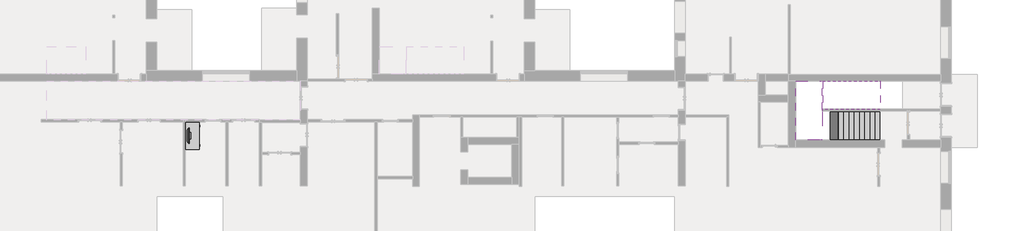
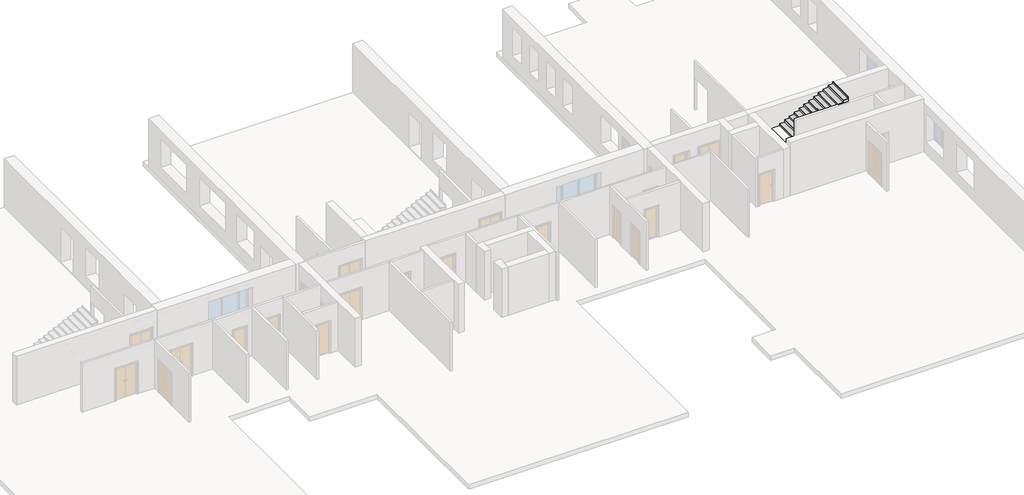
# One storey, part 10 of 10: 2 furniture elements, 2 stair flights, 1 slab.
"""IFC4 building model written with IfcOpenShell, lengths in millimetres."""

from ifc_helpers import new_model, si_unit, frame, origin, origin_with_axes, place, context, project, spatial, polyline, outline, extrude, faceted_brep, transform, mapped, element, save
from components import furniture_8f660baf, furniture_56245f3a

model = new_model("IFC4")

# Units and contexts
model_context = context("Model", 3, world=origin())
ifc_project = project(units=[si_unit("LENGTHUNIT", "METRE", prefix="MILLI")], contexts=[model_context])

# Site, building, storey
site = spatial("IfcSite", under=ifc_project)
building = spatial("IfcBuilding", under=site)
storey = spatial("IfcBuildingStorey", under=building, Name="1 этаж", Elevation=0.0)

# Furniture
placement = place(None, origin())
furniture_shape = furniture_8f660baf(model_context)
element("IfcFurniture", 1, ObjectType="Стол : 1525 x 762 мм", at=placement, inside=storey, context=model_context, shape_type="MappedRepresentation", body=[
    mapped(furniture_shape, transform((-22387.8240021, 2342.6370105, 0.0), x_axis=(0.0, 1.0, 0.0), y_axis=(-1.0, 0.0, 0.0), z_axis=(0.0, 0.0, 1.0))),
])
furniture_2_shape = furniture_56245f3a(model_context)
element("IfcFurniture", 2, ObjectType="ТВ - Плоский экран : 0810 мм", at=placement, inside=storey, context=model_context, shape_type="MappedRepresentation", body=[
    mapped(furniture_2_shape, transform((-23021.8272682, 3108.5815247, 765.0), x_axis=(0.0, 1.0, 0.0), y_axis=(-1.0, 0.0, 0.0), z_axis=(0.0, 0.0, 1.0))),
])

# Slab
element("IfcSlab", 3, ObjectType="ADSK_Монолитная_С отделкой_200х80", at=placement, inside=storey, context=model_context, shape_type="SolidModel", body=[
    faceted_brep([(13273.3708722, 2864.6370105, 1697.7777778), (13273.3708722, 4456.8092053, 1697.7777778), (13288.3708722, 4456.8092053, 1697.7777778), (13288.3708722, 4597.6092053, 1697.7777778), (13303.3708722, 4597.6092053, 1697.7777778), (13303.3708722, 6224.6370105, 1697.7777778), (13288.3708722, 6224.6370105, 1697.7777778), (13135.8893219, 6224.6370105, 1697.7777778), (11757.6759979, 6224.6370105, 1697.7777778), (11757.6759979, 2864.6370105, 1697.7777778), (13140.8524225, 2864.6370105, 1697.7777778), (13273.3708722, 2864.6370105, 1599.6296296), (13273.3708722, 2864.6370105, 1432.3365681), (13273.3708722, 4456.8092053, 1432.3365681), (13273.3708722, 4456.8092053, 1497.7777778), (13273.3708722, 4456.8092053, 1599.6296296), (13288.3708722, 4456.8092053, 1497.7777778), (13288.3708722, 4597.6092053, 1497.7777778), (13288.3708722, 4597.6092053, 1573.0773088), (13303.3708722, 4597.6092053, 1580.4847162), (13303.3708722, 6224.6370105, 1580.4847162), (13288.3708722, 6224.6370105, 1573.0773088), (13135.8893219, 6224.6370105, 1497.7777778), (11757.6759979, 6224.6370105, 1497.7777778), (11757.6759979, 2864.6370105, 1497.7777778), (13140.8524225, 2864.6370105, 1497.7777778), (13135.8893219, 4597.6092053, 1497.7777778), (13140.8524225, 4456.8092053, 1497.7777778)], [[[0, 1, 2, 3, 4, 5, 6, 7, 8, 9, 10]], [[1, 0, 11, 12, 13, 14, 15]], [[2, 1, 15, 14, 16]], [[3, 2, 16, 17, 18]], [[4, 3, 18, 19]], [[5, 4, 19, 20]], [[6, 5, 20, 21]], [[6, 21, 22, 23, 8, 7]], [[9, 8, 23, 24]], [[12, 11, 0, 10, 9, 24, 25]], [[26, 17, 16, 14, 27, 25, 24, 23, 22]], [[17, 26, 18]], [[25, 27, 13, 12]], [[27, 14, 13]], [[26, 22, 21, 20, 19, 18]]]),
    extrude(outline(polyline([(13288.3708722, 2864.6370105), (11757.6759979, 2864.6370105), (11757.6759979, 6224.6370105), (13288.3708722, 6224.6370105), (13288.3708722, 4597.6092053), (13288.3708722, 4456.8092053), (13288.3708722, 2864.6370105)])), frame((0.0, 0.0, 1697.7777778), z_axis=(0.0, 0.0, 1.0), x_axis=(1.0, 0.0, 0.0)), (0.0, 0.0, 1.0), 80.0),
])

# Stair flights
element("IfcStairFlight", 4, ObjectType="ADSK_Монолитный_С отделкой_150х30х15", at=placement, inside=storey, context=model_context, shape_type="SolidModel", body=[
    faceted_brep([(16273.3708722, 2864.6370105, 118.1481481), (16573.3708722, 2864.6370105, 118.1481481), (16573.3708722, 4456.8092053, 118.1481481), (16273.3708722, 4456.8092053, 118.1481481), (16273.3708722, 2864.6370105, 0.0), (16573.3708722, 2864.6370105, 0.0), (16573.3708722, 4456.8092053, 0.0), (16273.3708722, 4456.8092053, 0.0), (15973.3708722, 2864.6370105, 266.2962963), (16273.3708722, 2864.6370105, 266.2962963), (16273.3708722, 4456.8092053, 266.2962963), (15973.3708722, 4456.8092053, 266.2962963), (15973.3708722, 2864.6370105, 99.0032347), (16173.8524225, 2864.6370105, 0.0), (16173.8524225, 4456.8092053, 0.0), (15973.3708722, 4456.8092053, 99.0032347), (15673.3708722, 2864.6370105, 414.4444444), (15973.3708722, 2864.6370105, 414.4444444), (15973.3708722, 4456.8092053, 414.4444444), (15673.3708722, 4456.8092053, 414.4444444), (15673.3708722, 2864.6370105, 247.1513829), (15673.3708722, 4456.8092053, 247.1513829), (15373.3708722, 2864.6370105, 562.5925926), (15673.3708722, 2864.6370105, 562.5925926), (15673.3708722, 4456.8092053, 562.5925926), (15373.3708722, 4456.8092053, 562.5925926), (15373.3708722, 2864.6370105, 395.299531), (15373.3708722, 4456.8092053, 395.299531), (15073.3708722, 2864.6370105, 710.7407407), (15373.3708722, 2864.6370105, 710.7407407), (15373.3708722, 4456.8092053, 710.7407407), (15073.3708722, 4456.8092053, 710.7407407), (15073.3708722, 2864.6370105, 543.4476792), (15073.3708722, 4456.8092053, 543.4476792), (14773.3708722, 2864.6370105, 858.8888889), (15073.3708722, 2864.6370105, 858.8888889), (15073.3708722, 4456.8092053, 858.8888889), (14773.3708722, 4456.8092053, 858.8888889), (14773.3708722, 2864.6370105, 691.5958273), (14773.3708722, 4456.8092053, 691.5958273), (14473.3708722, 2864.6370105, 1007.037037), (14773.3708722, 2864.6370105, 1007.037037), (14773.3708722, 4456.8092053, 1007.037037), (14473.3708722, 4456.8092053, 1007.037037), (14473.3708722, 2864.6370105, 839.7439755), (14473.3708722, 4456.8092053, 839.7439755), (14173.3708722, 2864.6370105, 1155.1851852), (14473.3708722, 2864.6370105, 1155.1851852), (14473.3708722, 4456.8092053, 1155.1851852), (14173.3708722, 4456.8092053, 1155.1851852), (14173.3708722, 2864.6370105, 987.8921236), (14173.3708722, 4456.8092053, 987.8921236), (13873.3708722, 2864.6370105, 1303.3333333), (14173.3708722, 2864.6370105, 1303.3333333), (14173.3708722, 4456.8092053, 1303.3333333), (13873.3708722, 4456.8092053, 1303.3333333), (13873.3708722, 2864.6370105, 1136.0402718), (13873.3708722, 4456.8092053, 1136.0402718), (13573.3708722, 2864.6370105, 1451.4814815), (13873.3708722, 2864.6370105, 1451.4814815), (13873.3708722, 4456.8092053, 1451.4814815), (13573.3708722, 4456.8092053, 1451.4814815), (13573.3708722, 2864.6370105, 1284.1884199), (13573.3708722, 4456.8092053, 1284.1884199), (13573.3708722, 2864.6370105, 1599.6296296), (13573.3708722, 4456.8092053, 1599.6296296), (13288.3708722, 4456.8092053, 1599.6296296), (13273.3708722, 4456.8092053, 1599.6296296), (13273.3708722, 2864.6370105, 1599.6296296), (13288.3708722, 2864.6370105, 1599.6296296), (13273.3708722, 2864.6370105, 1432.3365681), (13288.3708722, 2864.6370105, 1424.9291607), (13273.3708722, 4456.8092053, 1432.3365681), (13273.3708722, 4456.8092053, 1497.7777778)], [[[0, 1, 2, 3]], [[1, 0, 4, 5]], [[2, 1, 5, 6]], [[3, 2, 6, 7]], [[8, 9, 10, 11]], [[4, 0, 9, 8, 12, 13]], [[0, 3, 10, 9]], [[3, 7, 14, 15, 11, 10]], [[16, 17, 18, 19]], [[17, 16, 20, 12, 8]], [[8, 11, 18, 17]], [[19, 18, 11, 15, 21]], [[22, 23, 24, 25]], [[23, 22, 26, 20, 16]], [[16, 19, 24, 23]], [[25, 24, 19, 21, 27]], [[28, 29, 30, 31]], [[29, 28, 32, 26, 22]], [[22, 25, 30, 29]], [[31, 30, 25, 27, 33]], [[34, 35, 36, 37]], [[35, 34, 38, 32, 28]], [[28, 31, 36, 35]], [[37, 36, 31, 33, 39]], [[40, 41, 42, 43]], [[41, 40, 44, 38, 34]], [[34, 37, 42, 41]], [[43, 42, 37, 39, 45]], [[46, 47, 48, 49]], [[47, 46, 50, 44, 40]], [[40, 43, 48, 47]], [[49, 48, 43, 45, 51]], [[52, 53, 54, 55]], [[53, 52, 56, 50, 46]], [[46, 49, 54, 53]], [[55, 54, 49, 51, 57]], [[58, 59, 60, 61]], [[59, 58, 62, 56, 52]], [[52, 55, 60, 59]], [[61, 60, 55, 57, 63]], [[64, 65, 66, 67, 68, 69]], [[58, 64, 69, 68, 70, 71, 62]], [[58, 61, 65, 64]], [[65, 61, 63, 72, 73, 67, 66]], [[68, 67, 73, 72, 70]], [[5, 4, 13, 14, 7, 6]], [[14, 13, 12, 20, 26, 32, 38, 44, 50, 56, 62, 71, 70, 72, 63, 57, 51, 45, 39, 33, 27, 21, 15]]]),
    extrude(outline(polyline([(16573.3708722, 4456.8092053), (16588.3708722, 4456.8092053), (16588.3708722, 2864.6370105), (16573.3708722, 2864.6370105), (16573.3708722, 4456.8092053)])), origin_with_axes(), (0.0, 0.0, 1.0), 118.1481481),
    extrude(outline(polyline([(16288.3708722, 2864.6370105), (16288.3708722, 4456.8092053), (16588.3708722, 4456.8092053), (16588.3708722, 2864.6370105), (16288.3708722, 2864.6370105)])), frame((0.0, 0.0, 118.1481481), z_axis=(0.0, 0.0, 1.0), x_axis=(1.0, 0.0, 0.0)), (0.0, 0.0, 1.0), 30.0),
    extrude(outline(polyline([(16273.3708722, 4456.8092053), (16288.3708722, 4456.8092053), (16288.3708722, 2864.6370105), (16273.3708722, 2864.6370105), (16273.3708722, 4456.8092053)])), frame((0.0, 0.0, 118.1481481), z_axis=(0.0, 0.0, 1.0), x_axis=(1.0, 0.0, 0.0)), (0.0, 0.0, 1.0), 148.1481481),
    extrude(outline(polyline([(15988.3708722, 2864.6370105), (15988.3708722, 4456.8092053), (16288.3708722, 4456.8092053), (16288.3708722, 2864.6370105), (15988.3708722, 2864.6370105)])), frame((0.0, 0.0, 266.2962963), z_axis=(0.0, 0.0, 1.0), x_axis=(1.0, 0.0, 0.0)), (0.0, 0.0, 1.0), 30.0),
    extrude(outline(polyline([(15973.3708722, 4456.8092053), (15988.3708722, 4456.8092053), (15988.3708722, 2864.6370105), (15973.3708722, 2864.6370105), (15973.3708722, 4456.8092053)])), frame((0.0, 0.0, 266.2962963), z_axis=(0.0, 0.0, 1.0), x_axis=(1.0, 0.0, 0.0)), (0.0, 0.0, 1.0), 148.1481481),
    extrude(outline(polyline([(15688.3708722, 2864.6370105), (15688.3708722, 4456.8092053), (15988.3708722, 4456.8092053), (15988.3708722, 2864.6370105), (15688.3708722, 2864.6370105)])), frame((0.0, 0.0, 414.4444444), z_axis=(0.0, 0.0, 1.0), x_axis=(1.0, 0.0, 0.0)), (0.0, 0.0, 1.0), 30.0),
    extrude(outline(polyline([(15673.3708722, 4456.8092053), (15688.3708722, 4456.8092053), (15688.3708722, 2864.6370105), (15673.3708722, 2864.6370105), (15673.3708722, 4456.8092053)])), frame((0.0, 0.0, 414.4444444), z_axis=(0.0, 0.0, 1.0), x_axis=(1.0, 0.0, 0.0)), (0.0, 0.0, 1.0), 148.1481481),
    extrude(outline(polyline([(15388.3708722, 2864.6370105), (15388.3708722, 4456.8092053), (15688.3708722, 4456.8092053), (15688.3708722, 2864.6370105), (15388.3708722, 2864.6370105)])), frame((0.0, 0.0, 562.5925926), z_axis=(0.0, 0.0, 1.0), x_axis=(1.0, 0.0, 0.0)), (0.0, 0.0, 1.0), 30.0),
    extrude(outline(polyline([(15373.3708722, 4456.8092053), (15388.3708722, 4456.8092053), (15388.3708722, 2864.6370105), (15373.3708722, 2864.6370105), (15373.3708722, 4456.8092053)])), frame((0.0, 0.0, 562.5925926), z_axis=(0.0, 0.0, 1.0), x_axis=(1.0, 0.0, 0.0)), (0.0, 0.0, 1.0), 148.1481481),
    extrude(outline(polyline([(15088.3708722, 2864.6370105), (15088.3708722, 4456.8092053), (15388.3708722, 4456.8092053), (15388.3708722, 2864.6370105), (15088.3708722, 2864.6370105)])), frame((0.0, 0.0, 710.7407407), z_axis=(0.0, 0.0, 1.0), x_axis=(1.0, 0.0, 0.0)), (0.0, 0.0, 1.0), 30.0),
    extrude(outline(polyline([(15073.3708722, 4456.8092053), (15088.3708722, 4456.8092053), (15088.3708722, 2864.6370105), (15073.3708722, 2864.6370105), (15073.3708722, 4456.8092053)])), frame((0.0, 0.0, 710.7407407), z_axis=(0.0, 0.0, 1.0), x_axis=(1.0, 0.0, 0.0)), (0.0, 0.0, 1.0), 148.1481481),
    extrude(outline(polyline([(14788.3708722, 2864.6370105), (14788.3708722, 4456.8092053), (15088.3708722, 4456.8092053), (15088.3708722, 2864.6370105), (14788.3708722, 2864.6370105)])), frame((0.0, 0.0, 858.8888889), z_axis=(0.0, 0.0, 1.0), x_axis=(1.0, 0.0, 0.0)), (0.0, 0.0, 1.0), 30.0),
    extrude(outline(polyline([(14773.3708722, 4456.8092053), (14788.3708722, 4456.8092053), (14788.3708722, 2864.6370105), (14773.3708722, 2864.6370105), (14773.3708722, 4456.8092053)])), frame((0.0, 0.0, 858.8888889), z_axis=(0.0, 0.0, 1.0), x_axis=(1.0, 0.0, 0.0)), (0.0, 0.0, 1.0), 148.1481481),
    extrude(outline(polyline([(14488.3708722, 2864.6370105), (14488.3708722, 4456.8092053), (14788.3708722, 4456.8092053), (14788.3708722, 2864.6370105), (14488.3708722, 2864.6370105)])), frame((0.0, 0.0, 1007.037037), z_axis=(0.0, 0.0, 1.0), x_axis=(1.0, 0.0, 0.0)), (0.0, 0.0, 1.0), 30.0),
    extrude(outline(polyline([(14473.3708722, 4456.8092053), (14488.3708722, 4456.8092053), (14488.3708722, 2864.6370105), (14473.3708722, 2864.6370105), (14473.3708722, 4456.8092053)])), frame((0.0, 0.0, 1007.037037), z_axis=(0.0, 0.0, 1.0), x_axis=(1.0, 0.0, 0.0)), (0.0, 0.0, 1.0), 148.1481481),
    extrude(outline(polyline([(14188.3708722, 2864.6370105), (14188.3708722, 4456.8092053), (14488.3708722, 4456.8092053), (14488.3708722, 2864.6370105), (14188.3708722, 2864.6370105)])), frame((0.0, 0.0, 1155.1851852), z_axis=(0.0, 0.0, 1.0), x_axis=(1.0, 0.0, 0.0)), (0.0, 0.0, 1.0), 30.0),
    extrude(outline(polyline([(14173.3708722, 4456.8092053), (14188.3708722, 4456.8092053), (14188.3708722, 2864.6370105), (14173.3708722, 2864.6370105), (14173.3708722, 4456.8092053)])), frame((0.0, 0.0, 1155.1851852), z_axis=(0.0, 0.0, 1.0), x_axis=(1.0, 0.0, 0.0)), (0.0, 0.0, 1.0), 148.1481481),
    extrude(outline(polyline([(13888.3708722, 2864.6370105), (13888.3708722, 4456.8092053), (14188.3708722, 4456.8092053), (14188.3708722, 2864.6370105), (13888.3708722, 2864.6370105)])), frame((0.0, 0.0, 1303.3333333), z_axis=(0.0, 0.0, 1.0), x_axis=(1.0, 0.0, 0.0)), (0.0, 0.0, 1.0), 30.0),
    extrude(outline(polyline([(13873.3708722, 4456.8092053), (13888.3708722, 4456.8092053), (13888.3708722, 2864.6370105), (13873.3708722, 2864.6370105), (13873.3708722, 4456.8092053)])), frame((0.0, 0.0, 1303.3333333), z_axis=(0.0, 0.0, 1.0), x_axis=(1.0, 0.0, 0.0)), (0.0, 0.0, 1.0), 148.1481481),
    extrude(outline(polyline([(13588.3708722, 2864.6370105), (13588.3708722, 4456.8092053), (13888.3708722, 4456.8092053), (13888.3708722, 2864.6370105), (13588.3708722, 2864.6370105)])), frame((0.0, 0.0, 1451.4814815), z_axis=(0.0, 0.0, 1.0), x_axis=(1.0, 0.0, 0.0)), (0.0, 0.0, 1.0), 30.0),
    extrude(outline(polyline([(13573.3708722, 4456.8092053), (13588.3708722, 4456.8092053), (13588.3708722, 2864.6370105), (13573.3708722, 2864.6370105), (13573.3708722, 4456.8092053)])), frame((0.0, 0.0, 1451.4814815), z_axis=(0.0, 0.0, 1.0), x_axis=(1.0, 0.0, 0.0)), (0.0, 0.0, 1.0), 148.1481481),
    extrude(outline(polyline([(13273.3708722, 4456.8092053), (13288.3708722, 4456.8092053), (13288.3708722, 2864.6370105), (13273.3708722, 2864.6370105), (13273.3708722, 4456.8092053)])), frame((0.0, 0.0, 1599.6296296), z_axis=(0.0, 0.0, 1.0), x_axis=(1.0, 0.0, 0.0)), (0.0, 0.0, 1.0), 98.1481481),
    extrude(outline(polyline([(13288.3708722, 2864.6370105), (13288.3708722, 4456.8092053), (13588.3708722, 4456.8092053), (13588.3708722, 2864.6370105), (13288.3708722, 2864.6370105)])), frame((0.0, 0.0, 1599.6296296), z_axis=(0.0, 0.0, 1.0), x_axis=(1.0, 0.0, 0.0)), (0.0, 0.0, 1.0), 30.0),
])
element("IfcStairFlight", 5, ObjectType="ADSK_Монолитный_С отделкой_150х30х15", at=placement, inside=storey, context=model_context, shape_type="SolidModel", body=[
    faceted_brep([(13603.3708722, 6224.6370105, 1895.9259259), (13303.3708722, 6224.6370105, 1895.9259259), (13303.3708722, 4597.6092053, 1895.9259259), (13603.3708722, 4597.6092053, 1895.9259259), (13603.3708722, 6224.6370105, 1728.6328644), (13303.3708722, 6224.6370105, 1580.4847162), (13303.3708722, 6224.6370105, 1697.7777778), (13303.3708722, 4597.6092053, 1580.4847162), (13303.3708722, 4597.6092053, 1697.7777778), (13603.3708722, 4597.6092053, 1728.6328644), (13903.3708722, 6224.6370105, 2044.0740741), (13603.3708722, 6224.6370105, 2044.0740741), (13603.3708722, 4597.6092053, 2044.0740741), (13903.3708722, 4597.6092053, 2044.0740741), (13903.3708722, 6224.6370105, 1876.7810125), (13903.3708722, 4597.6092053, 1876.7810125), (14203.3708722, 6224.6370105, 2192.2222222), (13903.3708722, 6224.6370105, 2192.2222222), (13903.3708722, 4597.6092053, 2192.2222222), (14203.3708722, 4597.6092053, 2192.2222222), (14203.3708722, 6224.6370105, 2024.9291607), (14203.3708722, 4597.6092053, 2024.9291607), (14503.3708722, 6224.6370105, 2340.3703704), (14203.3708722, 6224.6370105, 2340.3703704), (14203.3708722, 4597.6092053, 2340.3703704), (14503.3708722, 4597.6092053, 2340.3703704), (14503.3708722, 6224.6370105, 2173.0773088), (14503.3708722, 4597.6092053, 2173.0773088), (14803.3708722, 6224.6370105, 2488.5185185), (14503.3708722, 6224.6370105, 2488.5185185), (14503.3708722, 4597.6092053, 2488.5185185), (14803.3708722, 4597.6092053, 2488.5185185), (14803.3708722, 6224.6370105, 2321.2254569), (14803.3708722, 4597.6092053, 2321.2254569), (15103.3708722, 6224.6370105, 2636.6666667), (14803.3708722, 6224.6370105, 2636.6666667), (14803.3708722, 4597.6092053, 2636.6666667), (15103.3708722, 4597.6092053, 2636.6666667), (15103.3708722, 6224.6370105, 2469.3736051), (15103.3708722, 4597.6092053, 2469.3736051), (15403.3708722, 6224.6370105, 2784.8148148), (15103.3708722, 6224.6370105, 2784.8148148), (15103.3708722, 4597.6092053, 2784.8148148), (15403.3708722, 4597.6092053, 2784.8148148), (15403.3708722, 6224.6370105, 2617.5217532), (15403.3708722, 4597.6092053, 2617.5217532), (15703.3708722, 6224.6370105, 2932.962963), (15403.3708722, 6224.6370105, 2932.962963), (15403.3708722, 4597.6092053, 2932.962963), (15703.3708722, 4597.6092053, 2932.962963), (15703.3708722, 6224.6370105, 2765.6699014), (15703.3708722, 4597.6092053, 2765.6699014), (16003.3708722, 6224.6370105, 3081.1111111), (15703.3708722, 6224.6370105, 3081.1111111), (15703.3708722, 4597.6092053, 3081.1111111), (16003.3708722, 4597.6092053, 3081.1111111), (16003.3708722, 6224.6370105, 2913.8180495), (16003.3708722, 4597.6092053, 2913.8180495), (16303.3708722, 6224.6370105, 3229.2592593), (16003.3708722, 6224.6370105, 3229.2592593), (16003.3708722, 4597.6092053, 3229.2592593), (16303.3708722, 4597.6092053, 3229.2592593), (16303.3708722, 6224.6370105, 3061.9661977), (16303.3708722, 4597.6092053, 3061.9661977), (16603.3708722, 6224.6370105, 3377.4074074), (16303.3708722, 6224.6370105, 3377.4074074), (16303.3708722, 4597.6092053, 3377.4074074), (16603.3708722, 4597.6092053, 3377.4074074), (16603.3708722, 6224.6370105, 3210.1143458), (16603.3708722, 4597.6092053, 3210.1143458)], [[[0, 1, 2, 3]], [[1, 0, 4, 5, 6]], [[2, 1, 6, 5, 7, 8]], [[3, 2, 8, 7, 9]], [[10, 11, 12, 13]], [[11, 10, 14, 4, 0]], [[12, 11, 0, 3]], [[13, 12, 3, 9, 15]], [[16, 17, 18, 19]], [[17, 16, 20, 14, 10]], [[18, 17, 10, 13]], [[19, 18, 13, 15, 21]], [[22, 23, 24, 25]], [[23, 22, 26, 20, 16]], [[24, 23, 16, 19]], [[25, 24, 19, 21, 27]], [[28, 29, 30, 31]], [[29, 28, 32, 26, 22]], [[30, 29, 22, 25]], [[31, 30, 25, 27, 33]], [[34, 35, 36, 37]], [[35, 34, 38, 32, 28]], [[36, 35, 28, 31]], [[37, 36, 31, 33, 39]], [[40, 41, 42, 43]], [[41, 40, 44, 38, 34]], [[42, 41, 34, 37]], [[43, 42, 37, 39, 45]], [[46, 47, 48, 49]], [[47, 46, 50, 44, 40]], [[48, 47, 40, 43]], [[49, 48, 43, 45, 51]], [[52, 53, 54, 55]], [[53, 52, 56, 50, 46]], [[54, 53, 46, 49]], [[55, 54, 49, 51, 57]], [[58, 59, 60, 61]], [[59, 58, 62, 56, 52]], [[60, 59, 52, 55]], [[61, 60, 55, 57, 63]], [[64, 65, 66, 67]], [[65, 64, 68, 62, 58]], [[66, 65, 58, 61]], [[67, 66, 61, 63, 69]], [[64, 67, 69, 68]], [[5, 4, 14, 20, 26, 32, 38, 44, 50, 56, 62, 68, 69, 63, 57, 51, 45, 39, 33, 27, 21, 15, 9, 7]]]),
    extrude(outline(polyline([(13303.3708722, 4597.6092053), (13288.3708722, 4597.6092053), (13288.3708722, 6224.6370105), (13303.3708722, 6224.6370105), (13303.3708722, 4597.6092053)])), frame((0.0, 0.0, 1697.7777778), z_axis=(0.0, 0.0, 1.0), x_axis=(1.0, 0.0, 0.0)), (0.0, 0.0, 1.0), 198.1481481),
    extrude(outline(polyline([(13588.3708722, 6224.6370105), (13588.3708722, 4597.6092053), (13288.3708722, 4597.6092053), (13288.3708722, 6224.6370105), (13588.3708722, 6224.6370105)])), frame((0.0, 0.0, 1895.9259259), z_axis=(0.0, 0.0, 1.0), x_axis=(1.0, 0.0, 0.0)), (0.0, 0.0, 1.0), 30.0),
    extrude(outline(polyline([(13603.3708722, 4597.6092053), (13588.3708722, 4597.6092053), (13588.3708722, 6224.6370105), (13603.3708722, 6224.6370105), (13603.3708722, 4597.6092053)])), frame((0.0, 0.0, 1895.9259259), z_axis=(0.0, 0.0, 1.0), x_axis=(1.0, 0.0, 0.0)), (0.0, 0.0, 1.0), 148.1481481),
    extrude(outline(polyline([(13888.3708722, 6224.6370105), (13888.3708722, 4597.6092053), (13588.3708722, 4597.6092053), (13588.3708722, 6224.6370105), (13888.3708722, 6224.6370105)])), frame((0.0, 0.0, 2044.0740741), z_axis=(0.0, 0.0, 1.0), x_axis=(1.0, 0.0, 0.0)), (0.0, 0.0, 1.0), 30.0),
    extrude(outline(polyline([(13903.3708722, 4597.6092053), (13888.3708722, 4597.6092053), (13888.3708722, 6224.6370105), (13903.3708722, 6224.6370105), (13903.3708722, 4597.6092053)])), frame((0.0, 0.0, 2044.0740741), z_axis=(0.0, 0.0, 1.0), x_axis=(1.0, 0.0, 0.0)), (0.0, 0.0, 1.0), 148.1481481),
    extrude(outline(polyline([(14188.3708722, 6224.6370105), (14188.3708722, 4597.6092053), (13888.3708722, 4597.6092053), (13888.3708722, 6224.6370105), (14188.3708722, 6224.6370105)])), frame((0.0, 0.0, 2192.2222222), z_axis=(0.0, 0.0, 1.0), x_axis=(1.0, 0.0, 0.0)), (0.0, 0.0, 1.0), 30.0),
    extrude(outline(polyline([(14203.3708722, 4597.6092053), (14188.3708722, 4597.6092053), (14188.3708722, 6224.6370105), (14203.3708722, 6224.6370105), (14203.3708722, 4597.6092053)])), frame((0.0, 0.0, 2192.2222222), z_axis=(0.0, 0.0, 1.0), x_axis=(1.0, 0.0, 0.0)), (0.0, 0.0, 1.0), 148.1481481),
    extrude(outline(polyline([(14488.3708722, 6224.6370105), (14488.3708722, 4597.6092053), (14188.3708722, 4597.6092053), (14188.3708722, 6224.6370105), (14488.3708722, 6224.6370105)])), frame((0.0, 0.0, 2340.3703704), z_axis=(0.0, 0.0, 1.0), x_axis=(1.0, 0.0, 0.0)), (0.0, 0.0, 1.0), 30.0),
    extrude(outline(polyline([(14503.3708722, 4597.6092053), (14488.3708722, 4597.6092053), (14488.3708722, 6224.6370105), (14503.3708722, 6224.6370105), (14503.3708722, 4597.6092053)])), frame((0.0, 0.0, 2340.3703704), z_axis=(0.0, 0.0, 1.0), x_axis=(1.0, 0.0, 0.0)), (0.0, 0.0, 1.0), 148.1481481),
    extrude(outline(polyline([(14788.3708722, 6224.6370105), (14788.3708722, 4597.6092053), (14488.3708722, 4597.6092053), (14488.3708722, 6224.6370105), (14788.3708722, 6224.6370105)])), frame((0.0, 0.0, 2488.5185185), z_axis=(0.0, 0.0, 1.0), x_axis=(1.0, 0.0, 0.0)), (0.0, 0.0, 1.0), 30.0),
    extrude(outline(polyline([(14803.3708722, 4597.6092053), (14788.3708722, 4597.6092053), (14788.3708722, 6224.6370105), (14803.3708722, 6224.6370105), (14803.3708722, 4597.6092053)])), frame((0.0, 0.0, 2488.5185185), z_axis=(0.0, 0.0, 1.0), x_axis=(1.0, 0.0, 0.0)), (0.0, 0.0, 1.0), 148.1481481),
    extrude(outline(polyline([(15088.3708722, 6224.6370105), (15088.3708722, 4597.6092053), (14788.3708722, 4597.6092053), (14788.3708722, 6224.6370105), (15088.3708722, 6224.6370105)])), frame((0.0, 0.0, 2636.6666667), z_axis=(0.0, 0.0, 1.0), x_axis=(1.0, 0.0, 0.0)), (0.0, 0.0, 1.0), 30.0),
    extrude(outline(polyline([(15103.3708722, 4597.6092053), (15088.3708722, 4597.6092053), (15088.3708722, 6224.6370105), (15103.3708722, 6224.6370105), (15103.3708722, 4597.6092053)])), frame((0.0, 0.0, 2636.6666667), z_axis=(0.0, 0.0, 1.0), x_axis=(1.0, 0.0, 0.0)), (0.0, 0.0, 1.0), 148.1481481),
    extrude(outline(polyline([(15388.3708722, 6224.6370105), (15388.3708722, 4597.6092053), (15088.3708722, 4597.6092053), (15088.3708722, 6224.6370105), (15388.3708722, 6224.6370105)])), frame((0.0, 0.0, 2784.8148148), z_axis=(0.0, 0.0, 1.0), x_axis=(1.0, 0.0, 0.0)), (0.0, 0.0, 1.0), 30.0),
    extrude(outline(polyline([(15403.3708722, 4597.6092053), (15388.3708722, 4597.6092053), (15388.3708722, 6224.6370105), (15403.3708722, 6224.6370105), (15403.3708722, 4597.6092053)])), frame((0.0, 0.0, 2784.8148148), z_axis=(0.0, 0.0, 1.0), x_axis=(1.0, 0.0, 0.0)), (0.0, 0.0, 1.0), 148.1481481),
    extrude(outline(polyline([(15688.3708722, 6224.6370105), (15688.3708722, 4597.6092053), (15388.3708722, 4597.6092053), (15388.3708722, 6224.6370105), (15688.3708722, 6224.6370105)])), frame((0.0, 0.0, 2932.962963), z_axis=(0.0, 0.0, 1.0), x_axis=(1.0, 0.0, 0.0)), (0.0, 0.0, 1.0), 30.0),
    extrude(outline(polyline([(15703.3708722, 4597.6092053), (15688.3708722, 4597.6092053), (15688.3708722, 6224.6370105), (15703.3708722, 6224.6370105), (15703.3708722, 4597.6092053)])), frame((0.0, 0.0, 2932.962963), z_axis=(0.0, 0.0, 1.0), x_axis=(1.0, 0.0, 0.0)), (0.0, 0.0, 1.0), 148.1481481),
    extrude(outline(polyline([(15988.3708722, 6224.6370105), (15988.3708722, 4597.6092053), (15688.3708722, 4597.6092053), (15688.3708722, 6224.6370105), (15988.3708722, 6224.6370105)])), frame((0.0, 0.0, 3081.1111111), z_axis=(0.0, 0.0, 1.0), x_axis=(1.0, 0.0, 0.0)), (0.0, 0.0, 1.0), 30.0),
    extrude(outline(polyline([(16003.3708722, 4597.6092053), (15988.3708722, 4597.6092053), (15988.3708722, 6224.6370105), (16003.3708722, 6224.6370105), (16003.3708722, 4597.6092053)])), frame((0.0, 0.0, 3081.1111111), z_axis=(0.0, 0.0, 1.0), x_axis=(1.0, 0.0, 0.0)), (0.0, 0.0, 1.0), 148.1481481),
    extrude(outline(polyline([(16288.3708722, 6224.6370105), (16288.3708722, 4597.6092053), (15988.3708722, 4597.6092053), (15988.3708722, 6224.6370105), (16288.3708722, 6224.6370105)])), frame((0.0, 0.0, 3229.2592593), z_axis=(0.0, 0.0, 1.0), x_axis=(1.0, 0.0, 0.0)), (0.0, 0.0, 1.0), 30.0),
    extrude(outline(polyline([(16303.3708722, 4597.6092053), (16288.3708722, 4597.6092053), (16288.3708722, 6224.6370105), (16303.3708722, 6224.6370105), (16303.3708722, 4597.6092053)])), frame((0.0, 0.0, 3229.2592593), z_axis=(0.0, 0.0, 1.0), x_axis=(1.0, 0.0, 0.0)), (0.0, 0.0, 1.0), 148.1481481),
    extrude(outline(polyline([(16603.3708722, 4597.6092053), (16588.3708722, 4597.6092053), (16588.3708722, 6224.6370105), (16603.3708722, 6224.6370105), (16603.3708722, 4597.6092053)])), frame((0.0, 0.0, 3377.4074074), z_axis=(0.0, 0.0, 1.0), x_axis=(1.0, 0.0, 0.0)), (0.0, 0.0, 1.0), 148.1481481),
    extrude(outline(polyline([(16588.3708722, 6224.6370105), (16588.3708722, 4597.6092053), (16288.3708722, 4597.6092053), (16288.3708722, 6224.6370105), (16588.3708722, 6224.6370105)])), frame((0.0, 0.0, 3377.4074074), z_axis=(0.0, 0.0, 1.0), x_axis=(1.0, 0.0, 0.0)), (0.0, 0.0, 1.0), 30.0),
])

save(model, "model.ifc")
